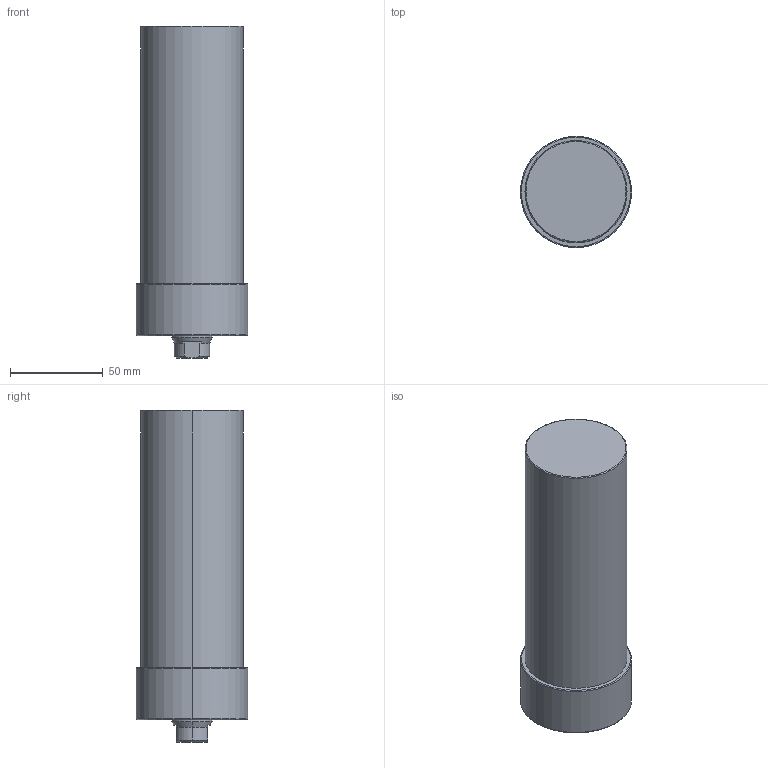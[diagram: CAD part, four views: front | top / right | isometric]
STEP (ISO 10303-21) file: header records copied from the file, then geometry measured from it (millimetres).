
FILE_DESCRIPTION (( 'STEP AP203' ), '1' );
FILE_NAME ('CLLU-055GA-110.STEP', '2020-01-06T07:07:35', ( '' ), ( '' ), 'SwSTEP 2.0', 'SolidWorks 2015', '' );
FILE_SCHEMA (( 'CONFIG_CONTROL_DESIGN' ));
Length unit declared in the file: millimetre
Products named in the file (1): CLLU-055GA-110
Bounding box: 60 x 60 x 179 mm (x, y, z)
Volume: 409741.3 mm3; surface area: 37340.1 mm2
Topology: 1 solids, 1 shells, 64 faces, 143 edges, 80 vertices
Faces by surface type: cone 25, cylinder 23, plane 10, torus 6
Entity records: 1805 total; most frequent: DIRECTION 330, CARTESIAN_POINT 318, ORIENTED_EDGE 266, AXIS2_PLACEMENT_3D 140, EDGE_CURVE 133, VERTEX_POINT 80, CIRCLE 75, EDGE_LOOP 73
